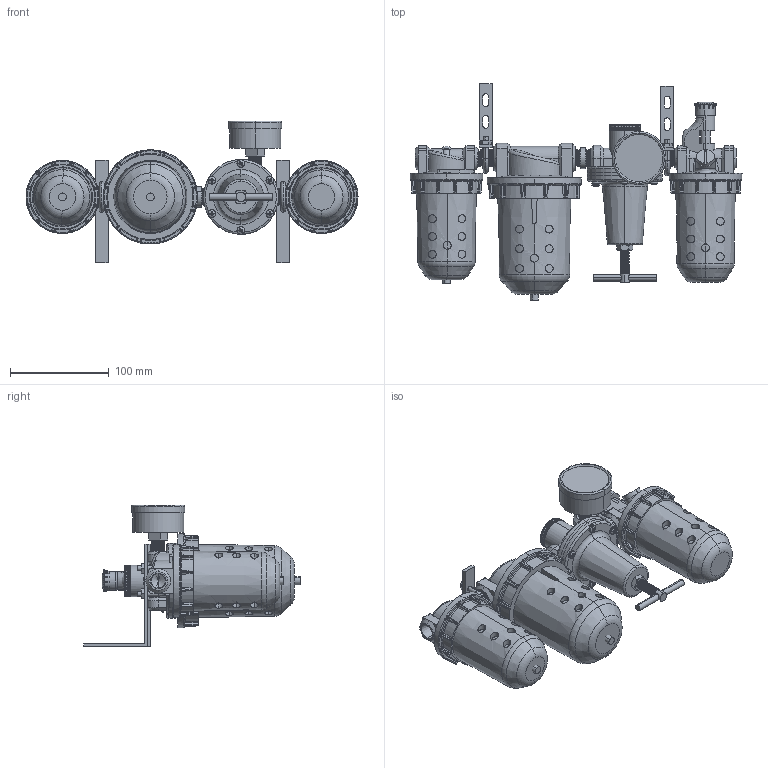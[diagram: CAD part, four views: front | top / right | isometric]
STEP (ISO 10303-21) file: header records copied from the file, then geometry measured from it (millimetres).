
FILE_DESCRIPTION (( 'STEP AP203' ), '1' );
FILE_NAME ('A728##-03YB#.STEP', '2016-02-16T02:31:00', ( '' ), ( '' ), 'SwSTEP 2.0', 'SolidWorks 2014', '' );
FILE_SCHEMA (( 'CONFIG_CONTROL_DESIGN' ));
Length unit declared in the file: millimetre
Products named in the file (27): R119-02-2; L606-W-04-1; R119-02-4; R119-02-1; R119-02-6; F602-03#YB#; ISO 7045 - M4 x 16; 50-P-AD=1-4PT-2; 50-P-AD=1-4PT.SLDPRT; 50-P-AD=1-4PT-1; R119-02-7; F602-02-2; A728##-03YB#; L606-W-06-4; F602-03(00)#YB#; R119-02-5; L606-W-06-3; L606-W-06-5
Assembly tree (37 placements, depth 4):
  A728##-03YB#
    F602-03#YB#
      (unnamed)
      F602-02-2
      L606-W-06-5
    (unnamed)  x3
    F602-03(00)#YB#
      L606-W-06-5
      (unnamed)
      (unnamed)
    (unnamed)
      L606-W-06-4
      L606-W-06-3  x2
      L606-W-04-1
      (unnamed)
    (unnamed)  x2
    (unnamed)
      R119-02-1
      R119-02-2
      (unnamed)
      R119-02-4
      ISO 7045 - M4 x 16  x7
      R119-02-5
      R119-02-6
      R119-02-7
      50-P-AD=1-4PT.SLDPRT
        50-P-AD=1-4PT-1
        50-P-AD=1-4PT-2
Bounding box: 337 x 219.51 x 144 mm (x, y, z)
Volume: 1588033.8 mm3; surface area: 238388.6 mm2
Topology: 38 solids, 38 shells, 2209 faces, 5449 edges, 3281 vertices
Faces by surface type: plane 688, cylinder 515, cone 449, bspline 317, torus 136, sphere 104
Entity records: 81049 total; most frequent: CARTESIAN_POINT 38707, ORIENTED_EDGE 8910, DIRECTION 7333, EDGE_CURVE 4455, AXIS2_PLACEMENT_3D 3014, VERTEX_POINT 2715, EDGE_LOOP 1938, ADVANCED_FACE 1849
